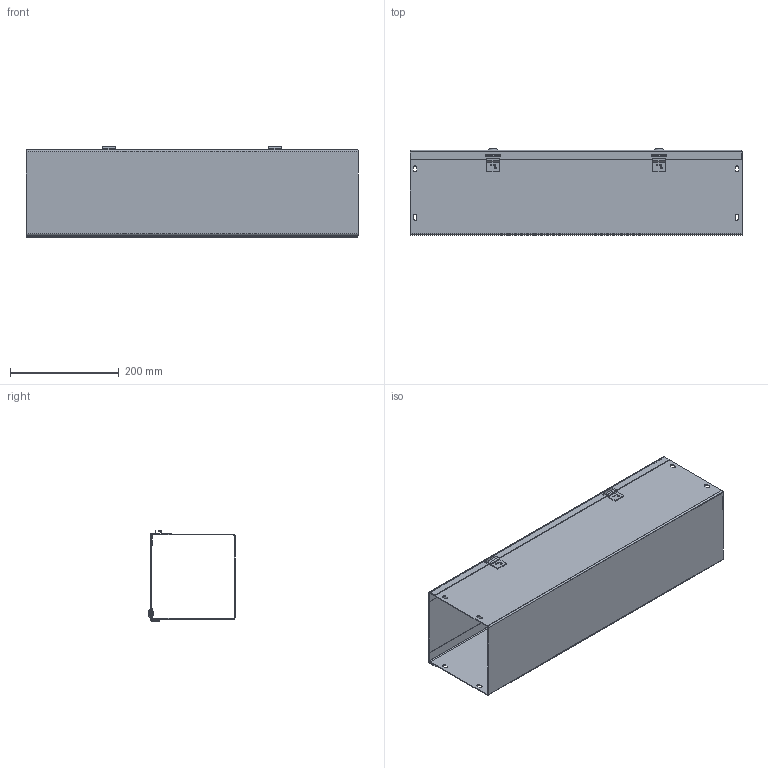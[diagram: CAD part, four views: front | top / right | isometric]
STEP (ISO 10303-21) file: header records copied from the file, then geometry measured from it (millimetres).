
FILE_DESCRIPTION (( 'STEP AP203' ), '1' );
FILE_NAME ('f66g24.STEP', '2013-08-02T18:43:07', ( 'User' ), ( 'Pentair Inc' ), 'SwSTEP 2.0', 'SolidWorks 2010', '' );
FILE_SCHEMA (( 'CONFIG_CONTROL_DESIGN' ));
Length unit declared in the file: inch
Products named in the file (4): Hinge_16104001; F40PF_StraightSectionCover_6x6x24; f66g24; F40PF_StraightSectionBody_6x6x24
Assembly tree (4 placements, depth 2):
  f66g24
    Hinge_16104001  x2
    F40PF_StraightSectionBody_6x6x24
    F40PF_StraightSectionCover_6x6x24
Bounding box: 609.6 x 157.91 x 166.7 mm (x, y, z)
Volume: 583268.6 mm3; surface area: 840749.3 mm2
Topology: 4 solids, 4 shells, 224 faces, 534 edges, 324 vertices
Faces by surface type: plane 138, cylinder 70, cone 12, torus 4
Entity records: 6053 total; most frequent: DIRECTION 1005, CARTESIAN_POINT 945, ORIENTED_EDGE 926, EDGE_CURVE 463, AXIS2_PLACEMENT_3D 342, LINE 321, VECTOR 321, VERTEX_POINT 282
